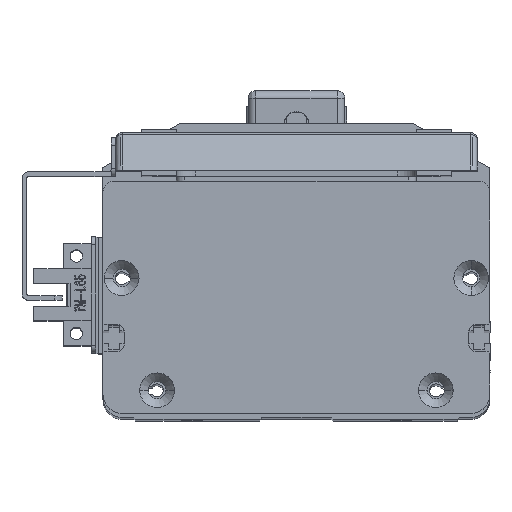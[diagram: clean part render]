
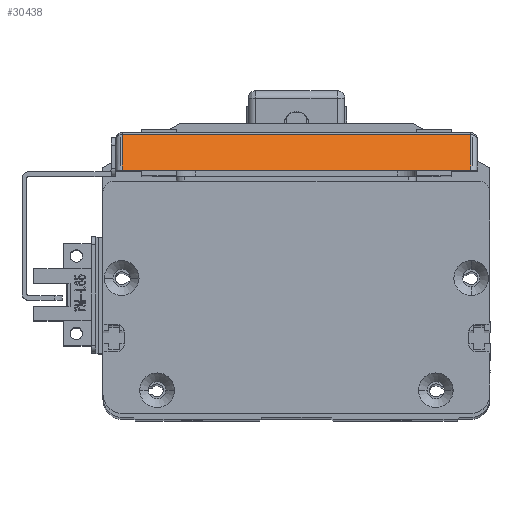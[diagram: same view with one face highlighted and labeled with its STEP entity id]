
A CAD part, top view. The second image highlights one B-rep face of the part: STEP entity #30438.
In plain terms, the highlighted planar face has unit normal (0, 0.707, 0.707) as drawn and (-0.707, 0, -0.707) by its records, which use the part's own axes.
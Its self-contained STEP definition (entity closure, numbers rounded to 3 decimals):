
#2061 = CARTESIAN_POINT ( 'NONE',  ( -66.5, 93.4, 4.1 ) ) ;
#3856 = EDGE_LOOP ( 'NONE', ( #6790, #54361, #42029, #25088 ) ) ;
#4174 = CARTESIAN_POINT ( 'NONE',  ( -68., 91.7, 5.6 ) ) ;
#6126 = LINE ( 'NONE', #26642, #39094 ) ;
#6790 = ORIENTED_EDGE ( 'NONE', *, *, #51376, .T. ) ;
#12383 = LINE ( 'NONE', #2061, #22882 ) ;
#13959 = FACE_OUTER_BOUND ( 'NONE', #3856, .T. ) ;
#16228 = LINE ( 'NONE', #4174, #61293 ) ;
#20129 = DIRECTION ( 'NONE',  ( 0.707, 0., -0.707 ) ) ;
#20190 = PLANE ( 'NONE',  #40488 ) ;
#20847 = DIRECTION ( 'NONE',  ( -0.707, 0., 0.707 ) ) ;
#21858 = DIRECTION ( 'NONE',  ( 0., -1., 0. ) ) ;
#21946 = VERTEX_POINT ( 'NONE', #27966 ) ;
#22882 = VECTOR ( 'NONE', #48748, 1000. ) ;
#23923 = CARTESIAN_POINT ( 'NONE',  ( -57.298, 91.7, -5.102 ) ) ;
#25088 = ORIENTED_EDGE ( 'NONE', *, *, #55059, .T. ) ;
#26642 = CARTESIAN_POINT ( 'NONE',  ( -57.298, 93.4, -5.102 ) ) ;
#27071 = DIRECTION ( 'NONE',  ( -0.707, 0., 0.707 ) ) ;
#27966 = CARTESIAN_POINT ( 'NONE',  ( -66.5, 1.7, 4.1 ) ) ;
#30438 = ADVANCED_FACE ( 'NONE', ( #13959 ), #20190, .T. ) ;
#31255 = DIRECTION ( 'NONE',  ( -0.707, 0., -0.707 ) ) ;
#34135 = CARTESIAN_POINT ( 'NONE',  ( -66.5, 91.7, 4.1 ) ) ;
#37088 = VECTOR ( 'NONE', #27071, 1000. ) ;
#39094 = VECTOR ( 'NONE', #21858, 1000. ) ;
#40206 = VERTEX_POINT ( 'NONE', #34135 ) ;
#40488 = AXIS2_PLACEMENT_3D ( 'NONE', #51431, #31255, #20847 ) ;
#42029 = ORIENTED_EDGE ( 'NONE', *, *, #50770, .T. ) ;
#42080 = CARTESIAN_POINT ( 'NONE',  ( -57.298, 1.7, -5.102 ) ) ;
#42988 = CARTESIAN_POINT ( 'NONE',  ( -68., 1.7, 5.6 ) ) ;
#44709 = EDGE_CURVE ( 'NONE', #21946, #40206, #12383, .T. ) ;
#46685 = VERTEX_POINT ( 'NONE', #42080 ) ;
#48748 = DIRECTION ( 'NONE',  ( 0., 1., 0. ) ) ;
#50770 = EDGE_CURVE ( 'NONE', #40206, #60582, #16228, .T. ) ;
#51376 = EDGE_CURVE ( 'NONE', #46685, #21946, #66081, .T. ) ;
#51431 = CARTESIAN_POINT ( 'NONE',  ( -68., 93.4, 5.6 ) ) ;
#54361 = ORIENTED_EDGE ( 'NONE', *, *, #44709, .T. ) ;
#55059 = EDGE_CURVE ( 'NONE', #60582, #46685, #6126, .T. ) ;
#60582 = VERTEX_POINT ( 'NONE', #23923 ) ;
#61293 = VECTOR ( 'NONE', #20129, 1000. ) ;
#66081 = LINE ( 'NONE', #42988, #37088 ) ;
